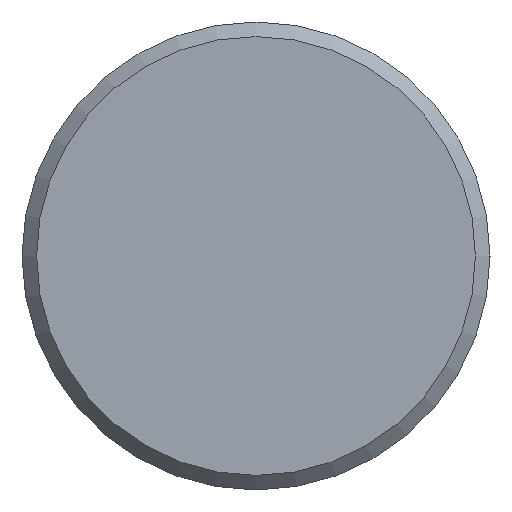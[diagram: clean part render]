
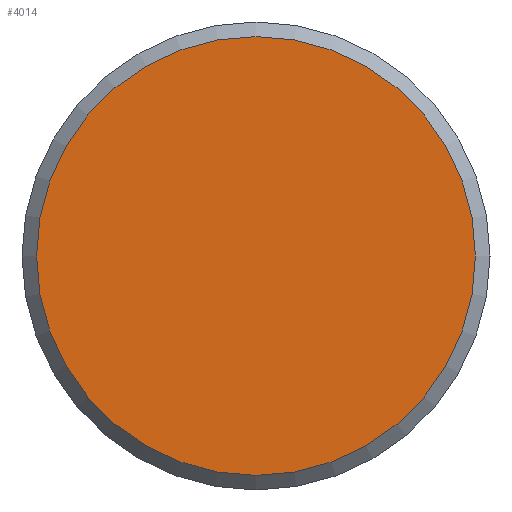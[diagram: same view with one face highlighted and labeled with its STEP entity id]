
A CAD part, left-side view. The second image highlights one B-rep face of the part: STEP entity #4014.
In plain terms, the highlighted planar face has unit normal (-1, 0, 0).
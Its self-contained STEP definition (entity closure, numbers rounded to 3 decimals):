
#1444=PLANE('',#3695);
#1500=ORIENTED_EDGE('',*,*,#2040,.T.);
#1768=CIRCLE('',#3694,7.5);
#1904=VERTEX_POINT('',#3283);
#2040=EDGE_CURVE('',#1904,#1904,#1768,.T.);
#2180=EDGE_LOOP('',(#1500));
#2452=FACE_BOUND('',#2180,.T.);
#2731=DIRECTION('',(-1.,0.,0.));
#2732=DIRECTION('',(0.,-7.5,0.));
#2733=DIRECTION('',(-1.,0.,0.));
#2734=DIRECTION('',(0.,1.,0.));
#3283=CARTESIAN_POINT('',(31.745,177.32,0.));
#3284=CARTESIAN_POINT('',(31.745,184.82,0.));
#3285=CARTESIAN_POINT('',(31.745,184.82,0.));
#3694=AXIS2_PLACEMENT_3D('',#3284,#2731,#2732);
#3695=AXIS2_PLACEMENT_3D('',#3285,#2733,#2734);
#4014=ADVANCED_FACE('',(#2452),#1444,.T.);
